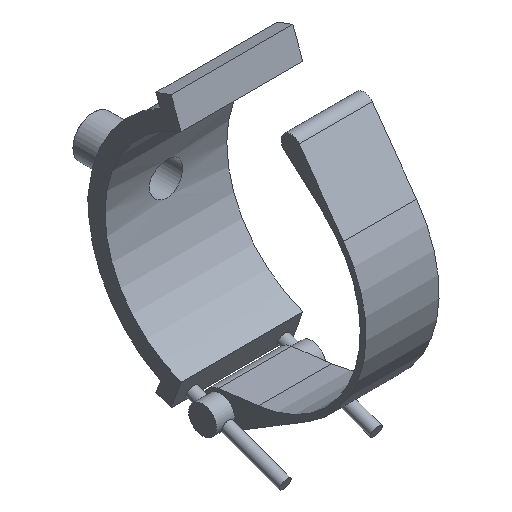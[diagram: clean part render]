
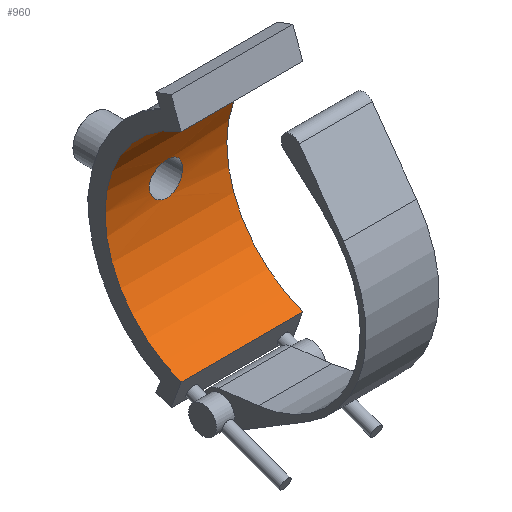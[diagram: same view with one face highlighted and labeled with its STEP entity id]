
A CAD part, isometric view. The second image highlights one B-rep face of the part: STEP entity #960.
In plain terms, the highlighted cylindrical face has radius 166.9 mm (diameter 333.8 mm), a partial arc.
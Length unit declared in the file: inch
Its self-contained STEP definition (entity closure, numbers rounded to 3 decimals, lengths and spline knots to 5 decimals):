
#24=FACE_BOUND('',#174,.T.);
#51=B_SPLINE_CURVE_WITH_KNOTS('',3,(#1845,#1846,#1847,#1848,#1849,#1850,
#1851,#1852,#1853,#1854,#1855,#1856,#1857,#1858,#1859,#1860,#1861,#1862),
 .UNSPECIFIED.,.F.,.F.,(4,2,2,2,2,2,2,2,4),(0.,0.45346,0.90692,
1.36038,1.81384,2.26729,2.72074,3.17419,
3.62764),.UNSPECIFIED.);
#52=B_SPLINE_CURVE_WITH_KNOTS('',3,(#1863,#1864,#1865,#1866,#1867,#1868,
#1869,#1870,#1871,#1872,#1873,#1874,#1875,#1876,#1877,#1878,#1879,#1880,
#1881,#1882,#1883,#1884,#1885,#1886,#1887,#1888,#1889,#1890,#1891,#1892,
#1893,#1894,#1895,#1896,#1897,#1898,#1899,#1900,#1901,#1902,#1903,#1904,
#1905,#1906,#1907,#1908,#1909,#1910,#1911,#1912),.UNSPECIFIED.,.F.,.F.,
(4,2,2,2,2,2,2,2,2,2,2,2,2,2,2,2,2,2,2,2,2,2,2,2,4),(3.62764,4.0811,
4.53455,4.988,5.44145,5.89491,6.34837,
6.80183,7.25529,7.70875,8.16221,8.61566,
9.06912,9.52258,9.97603,10.42948,10.88293,
11.33638,11.78984,12.24329,12.69674,13.1502,
13.60366,14.05712,14.51058),.UNSPECIFIED.);
#109=FACE_OUTER_BOUND('',#173,.T.);
#173=EDGE_LOOP('',(#757,#758,#759,#760));
#174=EDGE_LOOP('',(#761,#762));
#255=LINE('',#1835,#321);
#257=LINE('',#1839,#323);
#321=VECTOR('',#1249,0.3937);
#323=VECTOR('',#1253,0.3937);
#371=CIRCLE('',#1052,6.57087);
#372=CIRCLE('',#1059,6.57087);
#444=VERTEX_POINT('',#1666);
#447=VERTEX_POINT('',#1672);
#456=VERTEX_POINT('',#1834);
#457=VERTEX_POINT('',#1838);
#458=VERTEX_POINT('',#1843);
#459=VERTEX_POINT('',#1844);
#555=EDGE_CURVE('',#447,#444,#371,.T.);
#569=EDGE_CURVE('',#447,#456,#255,.T.);
#571=EDGE_CURVE('',#457,#444,#257,.T.);
#573=EDGE_CURVE('',#456,#457,#372,.T.);
#574=EDGE_CURVE('',#458,#459,#51,.T.);
#575=EDGE_CURVE('',#459,#458,#52,.T.);
#757=ORIENTED_EDGE('',*,*,#569,.T.);
#758=ORIENTED_EDGE('',*,*,#573,.T.);
#759=ORIENTED_EDGE('',*,*,#571,.T.);
#760=ORIENTED_EDGE('',*,*,#555,.F.);
#761=ORIENTED_EDGE('',*,*,#574,.T.);
#762=ORIENTED_EDGE('',*,*,#575,.T.);
#922=CYLINDRICAL_SURFACE('',#1058,6.57087);
#960=ADVANCED_FACE('',(#109,#24),#922,.F.);
#1052=AXIS2_PLACEMENT_3D('',#1674,#1232,#1233);
#1058=AXIS2_PLACEMENT_3D('',#1841,#1255,#1256);
#1059=AXIS2_PLACEMENT_3D('',#1842,#1257,#1258);
#1232=DIRECTION('center_axis',(1.,0.,0.));
#1233=DIRECTION('ref_axis',(0.,0.003,-1.));
#1249=DIRECTION('',(1.,0.,0.));
#1253=DIRECTION('',(-1.,0.,0.));
#1255=DIRECTION('center_axis',(-1.,0.,0.));
#1256=DIRECTION('ref_axis',(0.,0.003,-1.));
#1257=DIRECTION('center_axis',(1.,0.,0.));
#1258=DIRECTION('ref_axis',(0.,0.003,-1.));
#1666=CARTESIAN_POINT('',(-6.93,2.24737,6.17459));
#1672=CARTESIAN_POINT('',(-6.93,2.24737,-6.17459));
#1674=CARTESIAN_POINT('Origin',(-6.93,0.,0.));
#1834=CARTESIAN_POINT('',(0.,2.24737,-6.17459));
#1835=CARTESIAN_POINT('',(0.,2.24737,-6.17459));
#1838=CARTESIAN_POINT('',(0.,2.24737,6.17459));
#1839=CARTESIAN_POINT('',(0.,2.24737,6.17459));
#1841=CARTESIAN_POINT('Origin',(0.,0.,0.));
#1842=CARTESIAN_POINT('Origin',(0.,0.,0.));
#1843=CARTESIAN_POINT('',(-3.465,6.50235,0.94646));
#1844=CARTESIAN_POINT('',(-2.51854,6.57087,0.));
#1845=CARTESIAN_POINT('Ctrl Pts',(-3.465,6.50235,0.94646));
#1846=CARTESIAN_POINT('Ctrl Pts',(-3.40549,6.50235,0.94646));
#1847=CARTESIAN_POINT('Ctrl Pts',(-3.34398,6.50318,0.94075));
#1848=CARTESIAN_POINT('Ctrl Pts',(-3.22166,6.50661,0.91676));
#1849=CARTESIAN_POINT('Ctrl Pts',(-3.16086,6.50919,0.89848));
#1850=CARTESIAN_POINT('Ctrl Pts',(-3.04429,6.51568,0.85016));
#1851=CARTESIAN_POINT('Ctrl Pts',(-2.98843,6.51958,0.82008));
#1852=CARTESIAN_POINT('Ctrl Pts',(-2.88514,6.52795,0.75061));
#1853=CARTESIAN_POINT('Ctrl Pts',(-2.83772,6.5324,0.71122));
#1854=CARTESIAN_POINT('Ctrl Pts',(-2.75379,6.54099,0.62728));
#1855=CARTESIAN_POINT('Ctrl Pts',(-2.71439,6.54544,0.57986));
#1856=CARTESIAN_POINT('Ctrl Pts',(-2.64492,6.55377,0.47657));
#1857=CARTESIAN_POINT('Ctrl Pts',(-2.61484,6.55764,0.42071));
#1858=CARTESIAN_POINT('Ctrl Pts',(-2.56652,6.56408,0.30414));
#1859=CARTESIAN_POINT('Ctrl Pts',(-2.54824,6.56664,0.24334));
#1860=CARTESIAN_POINT('Ctrl Pts',(-2.52425,6.57004,0.12102));
#1861=CARTESIAN_POINT('Ctrl Pts',(-2.51854,6.57087,0.05951));
#1862=CARTESIAN_POINT('Ctrl Pts',(-2.51854,6.57087,0.));
#1863=CARTESIAN_POINT('Ctrl Pts',(-2.51854,6.57087,0.));
#1864=CARTESIAN_POINT('Ctrl Pts',(-2.51854,6.57087,-0.05951));
#1865=CARTESIAN_POINT('Ctrl Pts',(-2.52425,6.57004,-0.12102));
#1866=CARTESIAN_POINT('Ctrl Pts',(-2.54824,6.56664,-0.24334));
#1867=CARTESIAN_POINT('Ctrl Pts',(-2.56652,6.56408,-0.30414));
#1868=CARTESIAN_POINT('Ctrl Pts',(-2.61484,6.55764,-0.42071));
#1869=CARTESIAN_POINT('Ctrl Pts',(-2.64492,6.55377,-0.47657));
#1870=CARTESIAN_POINT('Ctrl Pts',(-2.71439,6.54544,-0.57986));
#1871=CARTESIAN_POINT('Ctrl Pts',(-2.75379,6.54099,-0.62728));
#1872=CARTESIAN_POINT('Ctrl Pts',(-2.83772,6.5324,-0.71122));
#1873=CARTESIAN_POINT('Ctrl Pts',(-2.88514,6.52795,-0.75061));
#1874=CARTESIAN_POINT('Ctrl Pts',(-2.98843,6.51958,-0.82008));
#1875=CARTESIAN_POINT('Ctrl Pts',(-3.04429,6.51568,-0.85016));
#1876=CARTESIAN_POINT('Ctrl Pts',(-3.16086,6.50919,-0.89848));
#1877=CARTESIAN_POINT('Ctrl Pts',(-3.22166,6.50661,-0.91676));
#1878=CARTESIAN_POINT('Ctrl Pts',(-3.34398,6.50318,-0.94075));
#1879=CARTESIAN_POINT('Ctrl Pts',(-3.40549,6.50235,-0.94646));
#1880=CARTESIAN_POINT('Ctrl Pts',(-3.52451,6.50235,-0.94646));
#1881=CARTESIAN_POINT('Ctrl Pts',(-3.58602,6.50318,-0.94075));
#1882=CARTESIAN_POINT('Ctrl Pts',(-3.70834,6.50661,-0.91676));
#1883=CARTESIAN_POINT('Ctrl Pts',(-3.76914,6.50919,-0.89848));
#1884=CARTESIAN_POINT('Ctrl Pts',(-3.88571,6.51568,-0.85016));
#1885=CARTESIAN_POINT('Ctrl Pts',(-3.94157,6.51958,-0.82008));
#1886=CARTESIAN_POINT('Ctrl Pts',(-4.04486,6.52795,-0.75061));
#1887=CARTESIAN_POINT('Ctrl Pts',(-4.09228,6.5324,-0.71122));
#1888=CARTESIAN_POINT('Ctrl Pts',(-4.17621,6.54099,-0.62728));
#1889=CARTESIAN_POINT('Ctrl Pts',(-4.21561,6.54544,-0.57986));
#1890=CARTESIAN_POINT('Ctrl Pts',(-4.28508,6.55377,-0.47657));
#1891=CARTESIAN_POINT('Ctrl Pts',(-4.31516,6.55764,-0.42071));
#1892=CARTESIAN_POINT('Ctrl Pts',(-4.36348,6.56408,-0.30414));
#1893=CARTESIAN_POINT('Ctrl Pts',(-4.38176,6.56664,-0.24334));
#1894=CARTESIAN_POINT('Ctrl Pts',(-4.40575,6.57004,-0.12102));
#1895=CARTESIAN_POINT('Ctrl Pts',(-4.41146,6.57087,-0.05951));
#1896=CARTESIAN_POINT('Ctrl Pts',(-4.41146,6.57087,0.05951));
#1897=CARTESIAN_POINT('Ctrl Pts',(-4.40575,6.57004,0.12102));
#1898=CARTESIAN_POINT('Ctrl Pts',(-4.38176,6.56664,0.24334));
#1899=CARTESIAN_POINT('Ctrl Pts',(-4.36348,6.56408,0.30414));
#1900=CARTESIAN_POINT('Ctrl Pts',(-4.31516,6.55764,0.42071));
#1901=CARTESIAN_POINT('Ctrl Pts',(-4.28508,6.55377,0.47657));
#1902=CARTESIAN_POINT('Ctrl Pts',(-4.21561,6.54544,0.57986));
#1903=CARTESIAN_POINT('Ctrl Pts',(-4.17621,6.54099,0.62728));
#1904=CARTESIAN_POINT('Ctrl Pts',(-4.09228,6.5324,0.71122));
#1905=CARTESIAN_POINT('Ctrl Pts',(-4.04486,6.52795,0.75061));
#1906=CARTESIAN_POINT('Ctrl Pts',(-3.94157,6.51958,0.82008));
#1907=CARTESIAN_POINT('Ctrl Pts',(-3.88571,6.51568,0.85016));
#1908=CARTESIAN_POINT('Ctrl Pts',(-3.76914,6.50919,0.89848));
#1909=CARTESIAN_POINT('Ctrl Pts',(-3.70834,6.50661,0.91676));
#1910=CARTESIAN_POINT('Ctrl Pts',(-3.58602,6.50318,0.94075));
#1911=CARTESIAN_POINT('Ctrl Pts',(-3.52451,6.50235,0.94646));
#1912=CARTESIAN_POINT('Ctrl Pts',(-3.465,6.50235,0.94646));
